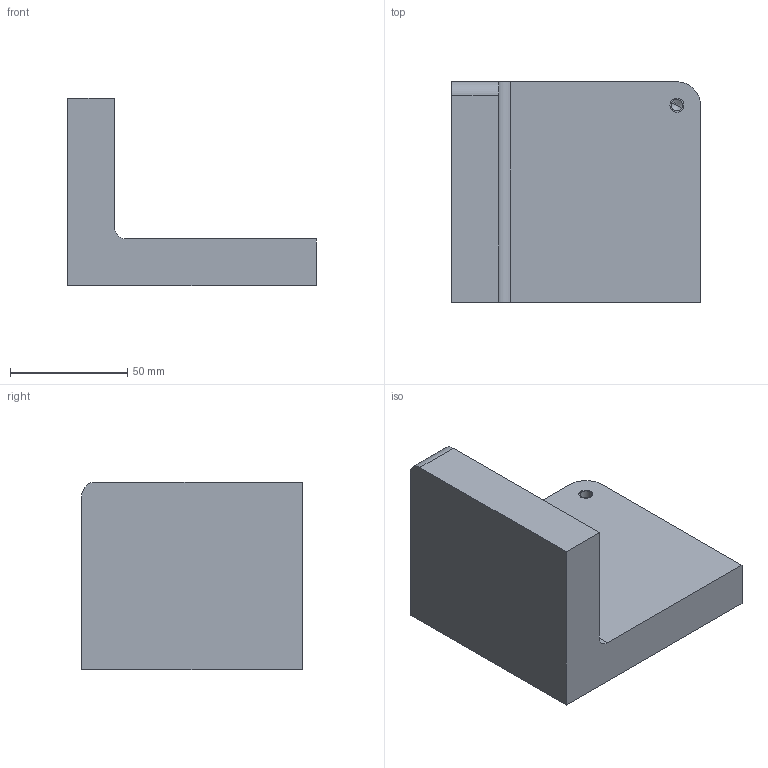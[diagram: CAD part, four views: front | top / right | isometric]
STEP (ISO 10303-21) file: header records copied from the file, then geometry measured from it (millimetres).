
FILE_DESCRIPTION(('CATIA V5 STEP Exchange'),'2;1');
FILE_NAME('C:\_Andres\UNIVERSIDAD\IQS\ASIGNATURAS\DAO\EXF\EXF-16172c\2inicio\Campmany_Monforte_Ej01_v6.stp','2017-03-05T15:11:04+00:00',('none'),('none'),'CATIA Version 5-6 Release 2014 SP1 HF18','CATIA V5 STEP AP203','none');
FILE_SCHEMA(('CONFIG_CONTROL_DESIGN'));
Length unit declared in the file: millimetre
Products named in the file (1): Campmany_Monforte_Ej01_v6
Bounding box: 106 x 94 x 80 mm (x, y, z)
Volume: 311687.8 mm3; surface area: 41697.6 mm2
Topology: 1 solids, 2 shells, 17 faces, 43 edges, 27 vertices
Faces by surface type: plane 8, cylinder 7, cone 2
Entity records: 513 total; most frequent: CARTESIAN_POINT 83, ORIENTED_EDGE 78, DIRECTION 69, EDGE_CURVE 41, AXIS2_PLACEMENT_3D 29, VECTOR 27, LINE 27, VERTEX_POINT 27
